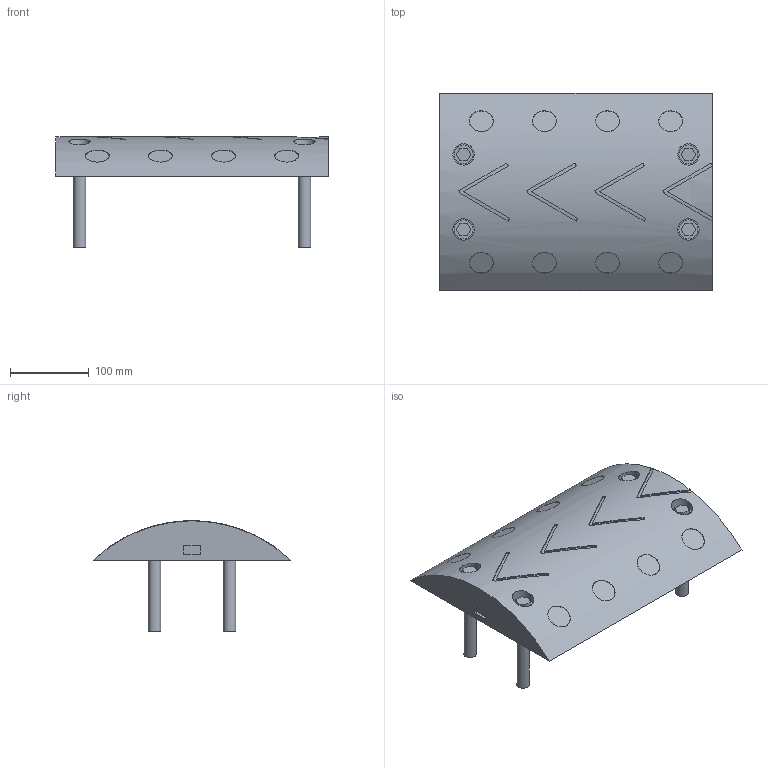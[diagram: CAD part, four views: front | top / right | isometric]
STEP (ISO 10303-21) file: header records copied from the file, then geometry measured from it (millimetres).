
FILE_DESCRIPTION(('FreeCAD Model'),'2;1');
FILE_NAME('Open CASCADE Shape Model','2026-10-04T05:47:51',('FreeCAD'),( 'FreeCAD'),'Open CASCADE STEP processor 7.8','FreeCAD','Unknown');
FILE_SCHEMA(('AUTOMOTIVE_DESIGN { 1 0 10303 214 1 1 1 1 }'));
Length unit declared in the file: millimetre
Products named in the file (1): Open CASCADE STEP translator 7.8 2
Bounding box: 345 x 250 x 140 mm (x, y, z)
Volume: 1147208 mm3; surface area: 472205.3 mm2
Topology: 17 solids, 18 shells, 198 faces, 389 edges, 260 vertices
Faces by surface type: plane 139, cylinder 59
Full cylindrical faces by diameter (mm): 10 x4, 10.4 x4, 11 x4, 16 x4, 24 x4, 27 x4, 30 x8, 30.4 x8, 31 x4, 34 x8
Entity records: 7429 total; most frequent: CARTESIAN_POINT 3176, DIRECTION 919, ORIENTED_EDGE 778, EDGE_CURVE 389, AXIS2_PLACEMENT_3D 355, VERTEX_POINT 260, FACE_BOUND 255, EDGE_LOOP 255
